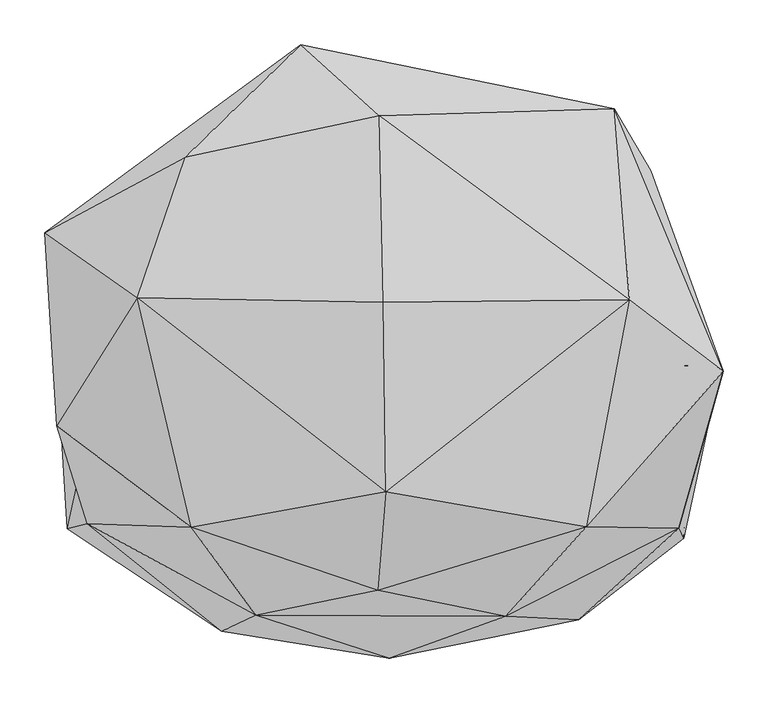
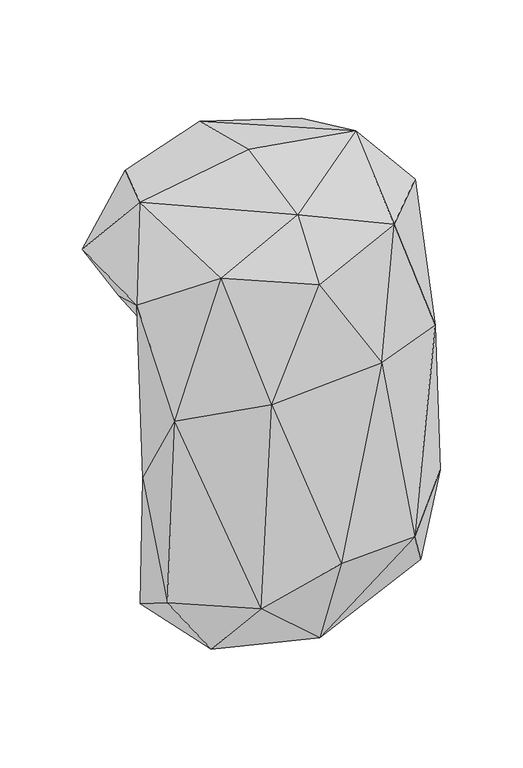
"""IFC4 building model written with IfcOpenShell, lengths in millimetres: geographic element geometry, Enscape AssetDefinition - Creeper Plant 001 Bower Vine : Enscape AssetDefinition - Creeper Plant 001 Bower Vine 3."""

from ifc_helpers import new_model, si_unit, origin, place, context, project, spatial, triangles, source, transform, mapped, element, save


def geographic_element_24ad659b(model_context):
    return source(origin(), model_context, "Body", "Tessellation", [
        triangles([(-332.872051, 0.0, 0.0), (332.872051, 0.0, 0.0), (304.49326, 0.0, -244.9970914), (355.2914311, -69.0720875, -90.5642486), (-376.0992817, -67.5221367, 89.3348905), (-328.9311942, 94.316436, 0.0), (283.368532, 157.3021535, 0.0), (-241.4212378, 210.0042056, 0.0), (-390.0167825, 149.332927, 114.0058773), (-232.025336, 234.1240088, 221.4851727), (-285.7495821, 76.046253, 249.6851592), (-102.3177372, 360.5824963, 119.9331591), (-230.4531936, 241.1684371, 13.9927176), (266.670496, 73.7577027, 250.7542255), (-14.0999933, 280.3611392, 249.5840389), (-9.3909528, 70.9463281, 300.0000023), (-1.9901519, 299.094934, 4.7349342), (-2.0135801, 292.7853809, 0.0), (250.3214212, 288.3328365, 161.4415084), (290.9469212, 219.0042739, 42.0841954), (17.0063055, 282.8001256, 0.0), (-21.410782, 283.3142838, 0.0), (218.5936704, -180.9065449, 169.8189041), (372.8082762, -6.3391394, 131.0528746), (-6.583285, -142.0566633, 249.7813561), (-15.5858253, -252.4854243, 130.9579222), (128.1132648, -281.78776, -113.2056082), (322.6068346, -182.9891939, -139.875392), (328.3269796, -194.1976667, -525.9278907), (210.4000208, -285.5079181, -610.9619081), (337.7882481, -72.9192228, -735.0664696), (278.9924365, -193.2876569, -751.6264326), (218.9154894, 0.0, -780.3516415), (337.3172012, -64.6441783, -427.8790063), (104.2314467, -68.9031571, -906.6732914), (-2.5548915, -329.0014661, -583.6410467), (9.620301, -210.7970714, -859.5200649), (-371.3051702, -73.8181187, -716.8135866), (-259.1365445, 0.0, -756.9692751), (-219.3224231, -127.3315084, -862.0724527), (-45.0262624, 0.0, -869.8123146), (33.5822729, 0.0, -883.0602705), (-326.310969, -7.8804601, -432.5473623), (265.1822147, 0.0, -441.2058455), (291.7360808, 0.0, -628.5896112), (-307.9754239, 0.0, -720.4671427), (-341.7623514, -177.6968934, -170.3540458), (-190.6686489, -298.2761976, -657.7489506), (-364.6959806, -183.4564982, -651.1324213), (-225.0141724, -181.8436788, 178.3146609), (-152.7127171, -280.816126, -129.06149), (290.146643, 0.0, -727.2883833)], [[44, 3, 34], [45, 44, 34], [34, 52, 45], [38, 46, 39], [25, 14, 16], [27, 26, 51], [51, 48, 36], [27, 51, 36], [51, 26, 50], [26, 25, 50], [48, 51, 47], [50, 47, 51], [48, 47, 49], [43, 38, 49], [38, 43, 46], [43, 49, 47], [39, 46, 43], [43, 45, 52], [43, 44, 45], [43, 3, 44], [43, 52, 33], [43, 33, 42], [43, 41, 39], [43, 42, 41], [39, 41, 40], [48, 49, 40], [38, 39, 40], [40, 49, 38], [48, 40, 37], [36, 48, 37], [41, 35, 40], [41, 42, 35], [35, 37, 40], [35, 42, 33], [34, 31, 52], [31, 33, 52], [31, 35, 33], [37, 35, 32], [31, 32, 35], [37, 30, 36], [32, 30, 37], [30, 27, 36], [32, 29, 30], [31, 29, 32], [34, 29, 31], [34, 4, 29], [4, 34, 3], [28, 27, 30], [28, 30, 29], [4, 28, 29], [23, 14, 25], [28, 23, 27], [25, 26, 23], [23, 26, 27], [4, 24, 28], [14, 23, 24], [23, 28, 24], [7, 8, 22], [22, 21, 7], [22, 18, 21], [20, 7, 21], [19, 24, 20], [24, 19, 14], [20, 21, 17], [17, 22, 8], [20, 17, 19], [17, 18, 22], [17, 21, 18], [17, 8, 13], [17, 13, 12], [12, 19, 17], [14, 15, 16], [19, 12, 15], [14, 19, 15], [11, 50, 25], [15, 11, 16], [11, 25, 16], [15, 10, 11], [10, 15, 12], [8, 9, 13], [9, 12, 13], [10, 12, 9], [10, 9, 11], [50, 5, 47], [47, 5, 43], [9, 5, 11], [50, 11, 5], [8, 6, 9], [5, 9, 6], [7, 6, 8], [5, 6, 1], [5, 1, 43], [7, 1, 6], [24, 4, 2], [4, 3, 2], [20, 2, 7], [20, 24, 2], [43, 2, 3], [43, 1, 2], [7, 2, 1]]),
    ])


if __name__ == "__main__":
    model = new_model("IFC4")
    model_context = context("Model", 3, world=origin())
    ifc_project = project(units=[si_unit("LENGTHUNIT", "METRE", prefix="MILLI")], contexts=[model_context])
    site = spatial("IfcSite", under=ifc_project)
    building = spatial("IfcBuilding", under=site)
    placement = place(None, origin())
    geographic_element_shape = geographic_element_24ad659b(model_context)
    element("IfcGeographicElement", 1, ObjectType="Enscape AssetDefinition - Creeper Plant 001 Bower Vine : Enscape AssetDefinition - Creeper Plant 001 Bower Vine 3", at=placement, inside=building, context=model_context, shape_type="MappedRepresentation", body=[
        mapped(geographic_element_shape, transform((0.0, 0.0, 0.0), x_axis=(1.0, 0.0, 0.0), y_axis=(0.0, 1.0, 0.0), z_axis=(0.0, 0.0, 1.0))),
    ])
    save(model, "model.ifc")
